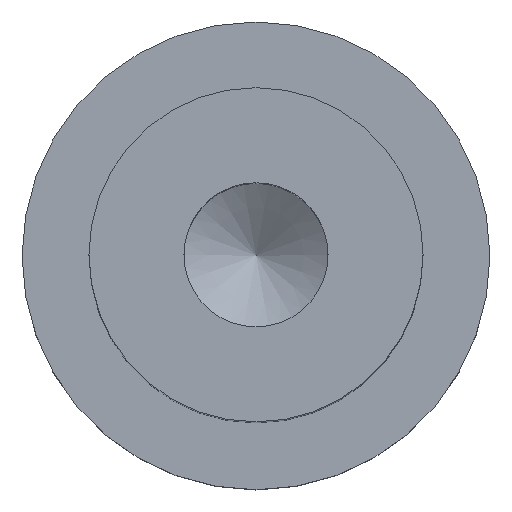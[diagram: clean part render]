
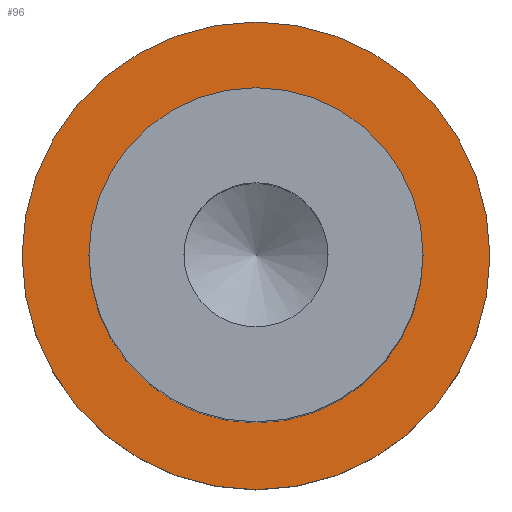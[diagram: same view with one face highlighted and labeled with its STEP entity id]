
A CAD part, top view. The second image highlights one B-rep face of the part: STEP entity #96.
In plain terms, the highlighted planar face has unit normal (0, 0, 1).
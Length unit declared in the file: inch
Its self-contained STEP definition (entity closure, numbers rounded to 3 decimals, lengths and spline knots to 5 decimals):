
#16=FACE_BOUND('',#37,.T.);
#18=PLANE('',#123);
#28=FACE_OUTER_BOUND('',#36,.T.);
#36=EDGE_LOOP('',(#87));
#37=EDGE_LOOP('',(#88));
#50=CIRCLE('',#118,0.6625);
#51=CIRCLE('',#121,0.9275);
#57=VERTEX_POINT('',#170);
#58=VERTEX_POINT('',#175);
#66=EDGE_CURVE('',#57,#57,#50,.T.);
#67=EDGE_CURVE('',#58,#58,#51,.T.);
#87=ORIENTED_EDGE('',*,*,#67,.T.);
#88=ORIENTED_EDGE('',*,*,#66,.T.);
#96=ADVANCED_FACE('',(#28,#16),#18,.T.);
#118=AXIS2_PLACEMENT_3D('',#172,#142,#143);
#121=AXIS2_PLACEMENT_3D('',#176,#148,#149);
#123=AXIS2_PLACEMENT_3D('',#180,#153,#154);
#142=DIRECTION('center_axis',(0.,0.,-1.));
#143=DIRECTION('ref_axis',(-1.,0.,0.));
#148=DIRECTION('center_axis',(0.,0.,1.));
#149=DIRECTION('ref_axis',(1.,0.,0.));
#153=DIRECTION('center_axis',(0.,0.,1.));
#154=DIRECTION('ref_axis',(1.,0.,0.));
#170=CARTESIAN_POINT('',(0.6625,0.,0.5));
#172=CARTESIAN_POINT('Origin',(0.,0.,0.5));
#175=CARTESIAN_POINT('',(-0.9275,0.,0.5));
#176=CARTESIAN_POINT('Origin',(0.,0.,0.5));
#180=CARTESIAN_POINT('Origin',(0.,0.,0.5));
